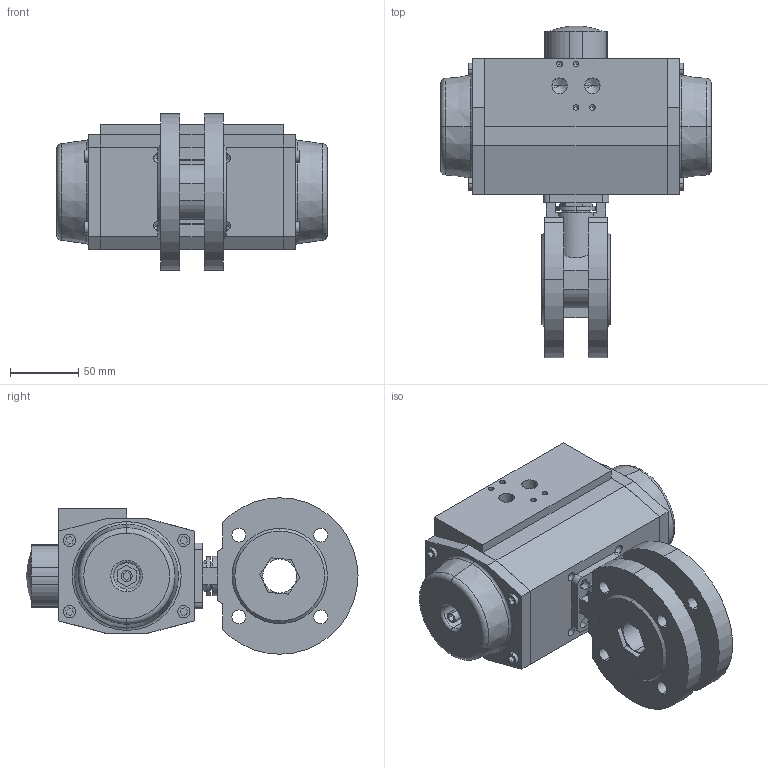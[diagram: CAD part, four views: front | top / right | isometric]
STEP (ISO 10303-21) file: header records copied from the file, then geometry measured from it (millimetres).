
FILE_DESCRIPTION (( 'STEP AP214' ), '1' );
FILE_NAME ('S15D DN25 AP3.STEP', '2012-04-24T08:18:38', ( 'Jan' ), ( '' ), 'SwSTEP 2.0', 'SolidWorks 2011', '' );
FILE_SCHEMA (( 'AUTOMOTIVE_DESIGN' ));
Length unit declared in the file: millimetre
Products named in the file (3): S15D DN25 AP3; S15D KK DN25 PN16; AP3_Default<As Machined>
Assembly tree (2 placements, depth 2):
  S15D DN25 AP3
    S15D KK DN25 PN16
    AP3_Default<As Machined>
Bounding box: 199 x 243.99 x 115 mm (x, y, z)
Volume: 1806406.7 mm3; surface area: 168483.7 mm2
Topology: 9 solids, 9 shells, 414 faces, 1045 edges, 663 vertices
Faces by surface type: plane 230, cylinder 126, cone 44, torus 12, sphere 2
Entity records: 13841 total; most frequent: DIRECTION 2145, CARTESIAN_POINT 2140, ORIENTED_EDGE 2018, EDGE_CURVE 1009, AXIS2_PLACEMENT_3D 720, LINE 705, VECTOR 705, VERTEX_POINT 663
